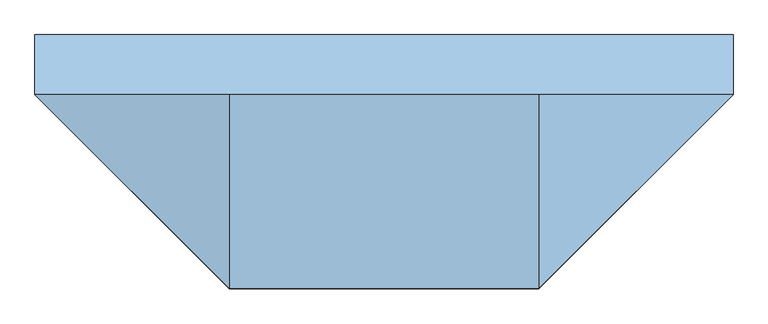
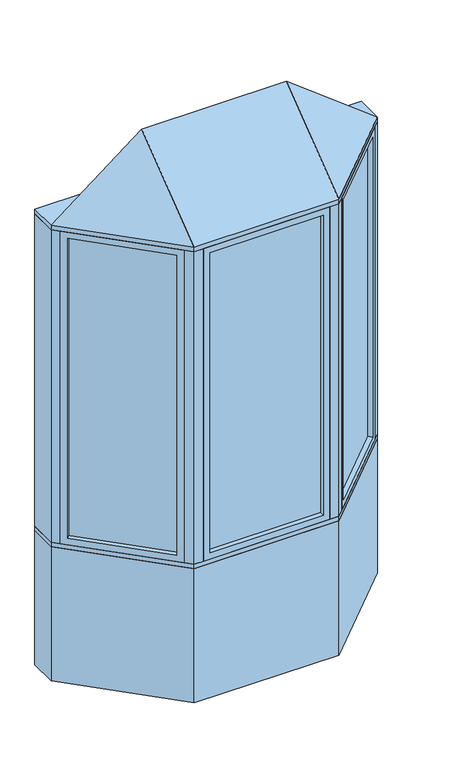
"""IFC4 building model written with IfcOpenShell, lengths in millimetres: window geometry, Pollard_Windows_Tudor Casement Bows and Bays : AML-BAY 45 AFR0518-08-600."""

from ifc_helpers import new_model, si_unit, frame, origin, origin_with_axes, place, context, project, spatial, polyline, outline, extrude, faceted_brep, source, transform, mapped, element, save


def window_addcb749(model_context):
    return source(origin(), model_context, "Body", "SolidModel", [
        extrude(outline(polyline([(824.0964271, -104.763169), (428.474814, -500.3847822), (424.8827115, -496.7926797), (820.5043247, -101.1710666), (824.0964271, -104.763169)])), frame((0.0, 0.0, 823.1628), z_axis=(0.0, 0.0, 1.0), x_axis=(1.0, 0.0, 0.0)), (0.0, 0.0, 1.0), 1753.6704),
        faceted_brep([(815.116171, -113.7434252, 835.8628), (833.0766833, -131.7039374, 835.8628), (833.0766833, -131.7039374, 2564.1332), (815.116171, -113.7434252, 2564.1332), (820.5043247, -101.1710666, 823.1628), (824.0964271, -104.763169, 823.1628), (824.0964271, -104.763169, 2576.8332), (820.5043247, -101.1710666, 2576.8332), (793.5635563, -92.1908105, 835.8628), (811.5240686, -110.1513227, 835.8628), (811.5240686, -110.1513227, 2564.1332), (793.5635563, -92.1908105, 2564.1332), (858.4369265, -106.3436941, 799.998), (818.9237996, -66.8305672, 799.998), (818.9237996, -66.8305672, 2599.998), (858.4369265, -106.3436941, 2599.998), (455.4155823, -509.3650383, 2564.1332), (437.4550701, -491.4045261, 2564.1332), (428.474814, -500.3847822, 2576.8332), (424.8827115, -496.7926797, 2576.8332), (433.8629677, -487.8124236, 2564.1332), (415.9024554, -469.8519114, 2564.1332), (390.5422121, -495.2121547, 2599.998), (430.0553391, -534.7252816, 2599.998), (455.4155823, -509.3650383, 835.8628), (437.4550701, -491.4045261, 835.8628), (428.474814, -500.3847822, 823.1628), (424.8827115, -496.7926797, 823.1628), (433.8629677, -487.8124236, 835.8628), (415.9024554, -469.8519114, 835.8628), (390.5422121, -495.2121547, 799.998), (430.0553391, -534.7252816, 799.998)], [[[0, 1, 2, 3]], [[4, 5, 6, 7]], [[8, 9, 10, 11]], [[12, 13, 14, 15]], [[3, 2, 16, 17]], [[7, 6, 18, 19]], [[11, 10, 20, 21]], [[15, 14, 22, 23]], [[17, 16, 24, 25]], [[19, 18, 26, 27]], [[21, 20, 28, 29]], [[23, 22, 30, 31]], [[25, 24, 1, 0]], [[5, 26, 18, 6], [3, 17, 25, 0]], [[27, 26, 5, 4]], [[7, 19, 27, 4], [9, 28, 20, 10]], [[29, 28, 9, 8]], [[13, 30, 22, 14], [11, 21, 29, 8]], [[31, 30, 13, 12]], [[15, 23, 31, 12], [1, 24, 16, 2]]]),
        extrude(outline(polyline([(-428.474814, -500.3847822), (-824.0964271, -104.763169), (-820.5043247, -101.1710666), (-424.8827115, -496.7926797), (-428.474814, -500.3847822)])), frame((0.0, 0.0, 823.1628), z_axis=(0.0, 0.0, 1.0), x_axis=(1.0, 0.0, 0.0)), (0.0, 0.0, 1.0), 1753.6704),
        faceted_brep([(-433.8629677, -487.8124236, 2564.1332), (-415.9024554, -469.8519114, 2564.1332), (-415.9024554, -469.8519114, 835.8628), (-433.8629677, -487.8124236, 835.8628), (-428.474814, -500.3847822, 2576.8332), (-424.8827115, -496.7926797, 2576.8332), (-424.8827115, -496.7926797, 823.1628), (-428.474814, -500.3847822, 823.1628), (-455.4155823, -509.3650383, 2564.1332), (-437.4550701, -491.4045261, 2564.1332), (-437.4550701, -491.4045261, 835.8628), (-455.4155823, -509.3650383, 835.8628), (-390.5422121, -495.2121547, 2599.998), (-430.0553391, -534.7252816, 2599.998), (-430.0553391, -534.7252816, 799.998), (-390.5422121, -495.2121547, 799.998), (-793.5635563, -92.1908105, 835.8628), (-811.5240686, -110.1513227, 835.8628), (-820.5043247, -101.1710666, 823.1628), (-824.0964271, -104.763169, 823.1628), (-815.116171, -113.7434252, 835.8628), (-833.0766833, -131.7039374, 835.8628), (-858.4369265, -106.3436941, 799.998), (-818.9237996, -66.8305672, 799.998), (-793.5635563, -92.1908105, 2564.1332), (-811.5240686, -110.1513227, 2564.1332), (-820.5043247, -101.1710666, 2576.8332), (-824.0964271, -104.763169, 2576.8332), (-815.116171, -113.7434252, 2564.1332), (-833.0766833, -131.7039374, 2564.1332), (-858.4369265, -106.3436941, 2599.998), (-818.9237996, -66.8305672, 2599.998)], [[[0, 1, 2, 3]], [[4, 5, 6, 7]], [[8, 9, 10, 11]], [[12, 13, 14, 15]], [[3, 2, 16, 17]], [[7, 6, 18, 19]], [[11, 10, 20, 21]], [[15, 14, 22, 23]], [[17, 16, 24, 25]], [[19, 18, 26, 27]], [[21, 20, 28, 29]], [[23, 22, 30, 31]], [[15, 23, 31, 12], [1, 24, 16, 2]], [[25, 24, 1, 0]], [[5, 26, 18, 6], [3, 17, 25, 0]], [[27, 26, 5, 4]], [[7, 19, 27, 4], [9, 28, 20, 10]], [[29, 28, 9, 8]], [[13, 30, 22, 14], [11, 21, 29, 8]], [[31, 30, 13, 12]]]),
        extrude(outline(polyline([(321.5352, -544.6806207), (-321.5352, -544.6806207), (-321.5352, -539.6006207), (321.5352, -539.6006207), (321.5352, -544.6806207)])), frame((0.0, 0.0, 823.1628), z_axis=(0.0, 0.0, 1.0), x_axis=(1.0, 0.0, 0.0)), (0.0, 0.0, 1.0), 1753.6704),
        faceted_brep([(308.8352, -544.6806207, 835.8628), (308.8352, -570.0806207, 835.8628), (308.8352, -570.0806207, 2564.1332), (308.8352, -544.6806207, 2564.1332), (321.5352, -539.6006207, 823.1628), (321.5352, -544.6806207, 823.1628), (321.5352, -544.6806207, 2576.8332), (321.5352, -539.6006207, 2576.8332), (308.8352, -514.2006207, 835.8628), (308.8352, -539.6006207, 835.8628), (308.8352, -539.6006207, 2564.1332), (308.8352, -514.2006207, 2564.1332), (344.7, -570.0806207, 799.998), (344.7, -514.2006207, 799.998), (344.7, -514.2006207, 2599.998), (344.7, -570.0806207, 2599.998), (-308.8352, -570.0806207, 2564.1332), (-308.8352, -544.6806207, 2564.1332), (-321.5352, -544.6806207, 2576.8332), (-321.5352, -539.6006207, 2576.8332), (-308.8352, -539.6006207, 2564.1332), (-308.8352, -514.2006207, 2564.1332), (-344.7, -514.2006207, 2599.998), (-344.7, -570.0806207, 2599.998), (-308.8352, -570.0806207, 835.8628), (-308.8352, -544.6806207, 835.8628), (-321.5352, -544.6806207, 823.1628), (-321.5352, -539.6006207, 823.1628), (-308.8352, -539.6006207, 835.8628), (-308.8352, -514.2006207, 835.8628), (-344.7, -514.2006207, 799.998), (-344.7, -570.0806207, 799.998)], [[[0, 1, 2, 3]], [[4, 5, 6, 7]], [[8, 9, 10, 11]], [[12, 13, 14, 15]], [[3, 2, 16, 17]], [[7, 6, 18, 19]], [[11, 10, 20, 21]], [[15, 14, 22, 23]], [[17, 16, 24, 25]], [[19, 18, 26, 27]], [[21, 20, 28, 29]], [[23, 22, 30, 31]], [[15, 23, 31, 12], [1, 24, 16, 2]], [[25, 24, 1, 0]], [[5, 26, 18, 6], [3, 17, 25, 0]], [[27, 26, 5, 4]], [[7, 19, 27, 4], [9, 28, 20, 10]], [[29, 28, 9, 8]], [[13, 30, 22, 14], [11, 21, 29, 8]], [[31, 30, 13, 12]]]),
        faceted_brep([(890.0, -74.7806207, 2625.398), (394.7, -570.0806207, 2625.398), (-394.7, -570.0806207, 2625.398), (-890.0, -74.7806207, 2625.398), (-394.7, -74.7806207, 3006.398), (394.7, -74.7806207, 3006.398)], [[[0, 1, 2, 3]], [[3, 2, 4]], [[2, 1, 5, 4]], [[1, 0, 5]], [[0, 3, 4, 5]]]),
        extrude(outline(polyline([(-890.0, 77.6193793), (890.0, 77.6193793), (890.0, -74.7806207), (394.7, -570.0806207), (-394.7, -570.0806207), (-890.0, -74.7806207), (-890.0, 77.6193793)])), frame((0.0, 0.0, 2599.998), z_axis=(0.0, 0.0, 1.0), x_axis=(1.0, 0.0, 0.0)), (0.0, 0.0, 1.0), 25.4),
        extrude(outline(polyline([(-890.0, -74.7806207), (-890.0, 77.6193793), (-826.8738531, 77.6193793), (-826.8738531, -74.7806207), (-858.4369265, -106.3436941), (-890.0, -74.7806207)])), frame((0.0, 0.0, 799.998), z_axis=(0.0, 0.0, 1.0), x_axis=(1.0, 0.0, 0.0)), (0.0, 0.0, 1.0), 1800.0),
        extrude(outline(polyline([(890.0, 77.6193793), (890.0, -74.7806207), (858.4369265, -106.3436941), (826.8738531, -74.7806207), (826.8738531, 77.6193793), (890.0, 77.6193793)])), frame((0.0, 0.0, 799.998), z_axis=(0.0, 0.0, 1.0), x_axis=(1.0, 0.0, 0.0)), (0.0, 0.0, 1.0), 1800.0),
        extrude(outline(polyline([(394.7, -570.0806207), (344.7, -570.0806207), (344.7, -520.0806207), (373.9893219, -520.0806207), (394.7, -499.3699425), (430.0553391, -534.7252816), (394.7, -570.0806207)])), frame((0.0, 0.0, 799.998), z_axis=(0.0, 0.0, 1.0), x_axis=(1.0, 0.0, 0.0)), (0.0, 0.0, 1.0), 1800.0),
        extrude(outline(polyline([(-394.7, -570.0806207), (-430.0553391, -534.7252816), (-394.7, -499.3699425), (-373.9893219, -520.0806207), (-344.7, -520.0806207), (-344.7, -570.0806207), (-394.7, -570.0806207)])), frame((0.0, 0.0, 799.998), z_axis=(0.0, 0.0, 1.0), x_axis=(1.0, 0.0, 0.0)), (0.0, 0.0, 1.0), 1800.0),
        extrude(outline(polyline([(-394.7, -570.0806207), (-890.0, -74.7806207), (-890.0, 77.6193793), (-826.8738531, 77.6193793), (-331.5738531, -417.6806207), (331.5738531, -417.6806207), (826.8738531, 77.6193793), (890.0, 77.6193793), (890.0, -74.7806207), (394.7, -570.0806207), (-394.7, -570.0806207)])), frame((0.0, 0.0, 774.598), z_axis=(0.0, 0.0, 1.0), x_axis=(1.0, 0.0, 0.0)), (0.0, 0.0, 1.0), 25.4),
        extrude(outline(polyline([(-890.0, -74.7806207), (-890.0, 77.6193793), (-826.8738531, 77.6193793), (-331.5738531, -417.6806207), (331.5738531, -417.6806207), (826.8738531, 77.6193793), (890.0, 77.6193793), (890.0, -74.7806207), (394.7, -570.0806207), (-394.7, -570.0806207), (-890.0, -74.7806207)])), origin_with_axes(), (0.0, 0.0, 1.0), 774.598),
    ])


if __name__ == "__main__":
    model = new_model("IFC4")
    model_context = context("Model", 3, world=origin())
    ifc_project = project(units=[si_unit("LENGTHUNIT", "METRE", prefix="MILLI")], contexts=[model_context])
    site = spatial("IfcSite", under=ifc_project)
    building = spatial("IfcBuilding", under=site)
    placement = place(None, origin())
    window_shape = window_addcb749(model_context)
    element("IfcWindow", 1, ObjectType="Pollard_Windows_Tudor Casement Bows and Bays : AML-BAY 45 AFR0518-08-600", at=placement, inside=building, context=model_context, shape_type="MappedRepresentation", body=[
        mapped(window_shape, transform((0.0, 0.0, 0.0), x_axis=(1.0, 0.0, 0.0), y_axis=(0.0, 1.0, 0.0), z_axis=(0.0, 0.0, 1.0))),
    ])
    save(model, "model.ifc")
